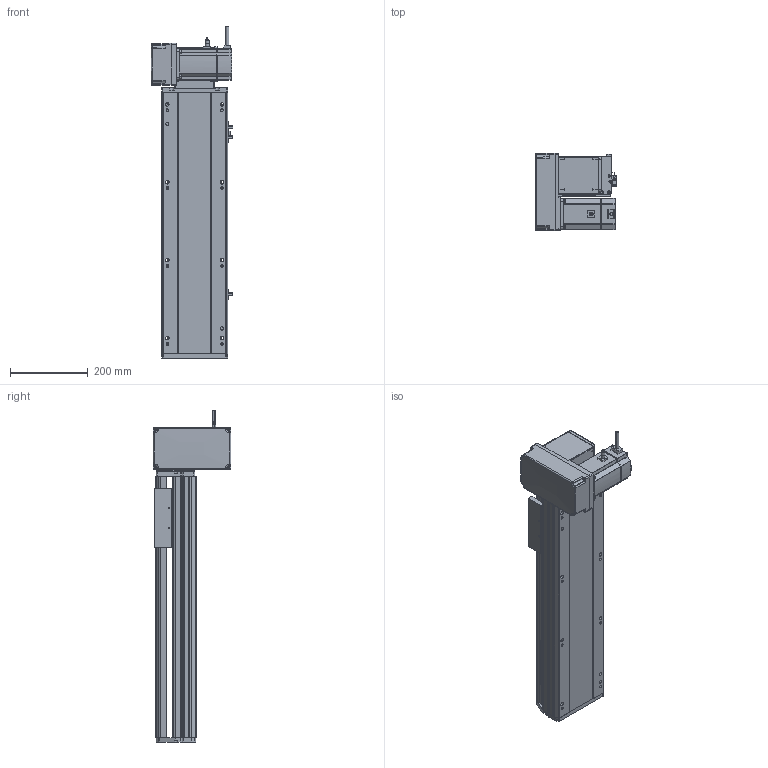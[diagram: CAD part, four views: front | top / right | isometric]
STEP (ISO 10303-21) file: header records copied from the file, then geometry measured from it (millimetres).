
FILE_DESCRIPTION (( 'STEP AP214' ), '1' );
FILE_NAME ('RTB17S-XX-400-LM-M75-C4.STEP', '2025-12-12T00:34:51', ( '' ), ( '' ), 'SwSTEP 2.0', 'SolidWorks 2018', '' );
FILE_SCHEMA (( 'AUTOMOTIVE_DESIGN' ));
Length unit declared in the file: millimetre
Products named in the file (15): RTB17S-L-014-T20-P75--々湍釱^RTB17S-LM-々湍釱蚾饜-750W_RTB17S-XX-XX-LM-M75-C4; EE672^RTB17S-XX-XX-LM-M75-C4; RTB17S-LM-々湍釱蚾饜-750W^RTB17S-XX-XX-LM-M75-C4; RTH13-BL-012覜茼え俋离^RTB17S-賑釱_RTB17S-XX-XX-LM-M75-C4; RTB17S-L-007奻裔^RTB17S-XX-XX-LM-M75-C4; RTB22S-GY-018P^RTB17S-LM-々湍釱蚾饜-750W_RTB17S-XX-XX-LM-M75-C4; RTB22S-GY-017P^RTB17S-LM-々湍釱蚾饜-750W_RTB17S-XX-XX-LM-M75-C4; 750W萇儂^RTB17S-XX-XX-LM-M75-C4; RTB17S-賑釱^RTB17S-XX-XX-LM-M75-C4; RTB17S-L-004-賑釱^RTB17S-賑釱_RTB17S-XX-XX-LM-M75-C4; RTB22S-GY-005P^RTB17S-LM-々湍釱蚾饜-750W_RTB17S-XX-XX-LM-M75-C4; RTB17-R-011菁釱^RTB17S-XX-XX-LM-M75-C4; RTB17S-XX-400-LM-M75-C4; RTB22S-GY-008-M75--萇儂啣^RTB17S-LM-々湍釱蚾饜-750W_RTB17S-XX-XX-LM-M75-C4; RTB17S-L-001-耜醱啣^RTB17S-XX-XX-LM-M75-C4
Assembly tree (17 placements, depth 3):
  RTB17S-XX-400-LM-M75-C4
    RTB17-R-011菁釱^RTB17S-XX-XX-LM-M75-C4
    EE672^RTB17S-XX-XX-LM-M75-C4  x3
    RTB17S-L-001-耜醱啣^RTB17S-XX-XX-LM-M75-C4
    RTB17S-賑釱^RTB17S-XX-XX-LM-M75-C4
      RTB17S-L-004-賑釱^RTB17S-賑釱_RTB17S-XX-XX-LM-M75-C4
      RTH13-BL-012覜茼え俋离^RTB17S-賑釱_RTB17S-XX-XX-LM-M75-C4
    RTB17S-L-007奻裔^RTB17S-XX-XX-LM-M75-C4
    750W萇儂^RTB17S-XX-XX-LM-M75-C4
    RTB17S-LM-々湍釱蚾饜-750W^RTB17S-XX-XX-LM-M75-C4
      RTB17S-L-014-T20-P75--々湍釱^RTB17S-LM-々湍釱蚾饜-750W_RTB17S-XX-XX-LM-M75-C4
      RTB22S-GY-005P^RTB17S-LM-々湍釱蚾饜-750W_RTB17S-XX-XX-LM-M75-C4
      RTB22S-GY-017P^RTB17S-LM-々湍釱蚾饜-750W_RTB17S-XX-XX-LM-M75-C4  x2
      RTB22S-GY-008-M75--萇儂啣^RTB17S-LM-々湍釱蚾饜-750W_RTB17S-XX-XX-LM-M75-C4
      RTB22S-GY-018P^RTB17S-LM-々湍釱蚾饜-750W_RTB17S-XX-XX-LM-M75-C4
Bounding box: 210.4 x 200 x 852.2 mm (x, y, z)
Volume: 8453064.9 mm3; surface area: 1333022.2 mm2
Topology: 17 solids, 17 shells, 2041 faces, 5620 edges, 3626 vertices
Faces by surface type: plane 964, cylinder 661, bspline 294, cone 110, sphere 8, torus 4
Entity records: 55798 total; most frequent: CARTESIAN_POINT 16284, ORIENTED_EDGE 8084, DIRECTION 7592, EDGE_CURVE 4042, AXIS2_PLACEMENT_3D 2646, VERTEX_POINT 2630, LINE 2300, VECTOR 2300
